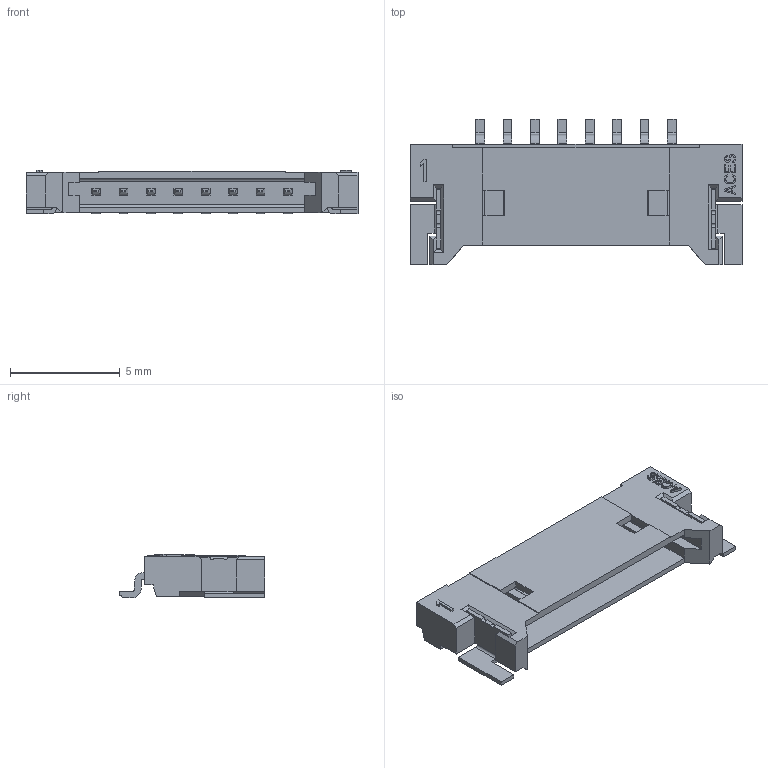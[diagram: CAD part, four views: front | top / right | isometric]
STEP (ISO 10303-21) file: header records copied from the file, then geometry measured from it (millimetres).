
FILE_DESCRIPTION((''),'2;1');
FILE_NAME('S-88231-08XXX-XX_AF0','2010-02-03T',('ouchwu'),(''),'PRO/ENGINEER BY PARAMETRIC TECHNOLOGY CORPORATION, 2007450','PRO/ENGINEER BY PARAMETRIC TECHNOLOGY CORPORATION, 2007450','');
FILE_SCHEMA(('CONFIG_CONTROL_DESIGN'));
Length unit declared in the file: millimetre
Products named in the file (1): S-88231-08XXX-XX_AF0
Bounding box: 15.15 x 6.65 x 2 mm (x, y, z)
Volume: 70.6 mm3; surface area: 377.8 mm2
Topology: 1 solids, 21 shells, 700 faces, 1804 edges, 1168 vertices
Faces by surface type: plane 650, cylinder 50
Entity records: 20810 total; most frequent: CARTESIAN_POINT 3672, ORIENTED_EDGE 3608, DIRECTION 3312, EDGE_CURVE 1804, VECTOR 1696, LINE 1696, VERTEX_POINT 1168, AXIS2_PLACEMENT_3D 808
